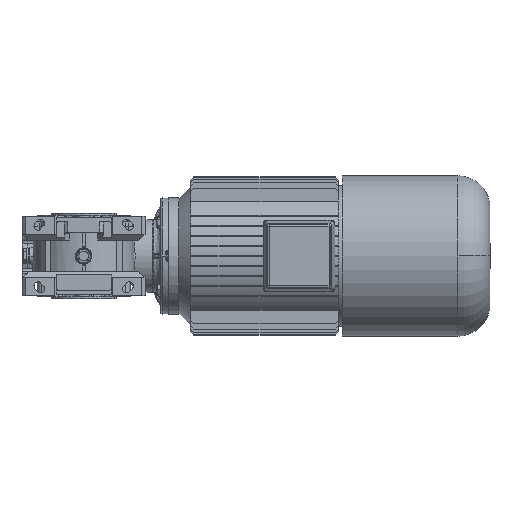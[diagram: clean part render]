
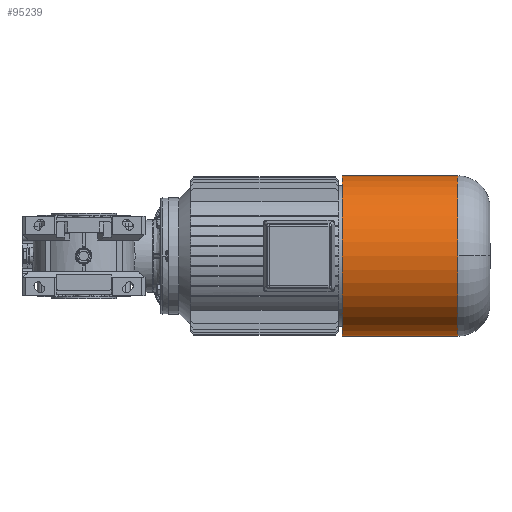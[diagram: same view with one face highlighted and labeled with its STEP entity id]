
A CAD part, front view. The second image highlights one B-rep face of the part: STEP entity #95239.
In plain terms, the highlighted cylindrical face has radius 110.5 mm (diameter 221 mm), a partial arc.
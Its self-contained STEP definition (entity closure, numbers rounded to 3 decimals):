
#95189=CARTESIAN_POINT('',(378.9,0.0,0.0));
#95190=DIRECTION('',(1.0,0.0,0.0));
#95191=DIRECTION('',(0.0,1.0,0.0));
#95192=AXIS2_PLACEMENT_3D('',#95189,#95190,#95191);
#95193=CYLINDRICAL_SURFACE('',#95192,110.5);
#95194=CARTESIAN_POINT('',(299.0,110.5,0.0));
#95195=VERTEX_POINT('',#95194);
#95196=CARTESIAN_POINT('',(458.8,110.5,0.0));
#95197=VERTEX_POINT('',#95196);
#95198=CARTESIAN_POINT('',(299.0,110.5,0.0));
#95199=DIRECTION('',(1.0,0.0,0.0));
#95200=VECTOR('',#95199,159.8);
#95201=LINE('',#95198,#95200);
#95202=EDGE_CURVE('',#95195,#95197,#95201,.T.);
#95203=ORIENTED_EDGE('',*,*,#95202,.F.);
#95204=CARTESIAN_POINT('',(299.0,-110.5,0.));
#95205=VERTEX_POINT('',#95204);
#95206=CARTESIAN_POINT('',(299.0,0.0,0.0));
#95207=DIRECTION('',(1.0,0.0,0.0));
#95208=DIRECTION('',(0.0,1.0,0.0));
#95209=AXIS2_PLACEMENT_3D('',#95206,#95207,#95208);
#95210=CIRCLE('',#95209,110.5);
#95211=EDGE_CURVE('',#95195,#95205,#95210,.T.);
#95212=ORIENTED_EDGE('',*,*,#95211,.T.);
#95213=CARTESIAN_POINT('',(458.8,-110.5,0.));
#95214=VERTEX_POINT('',#95213);
#95215=CARTESIAN_POINT('',(458.8,-110.5,0.));
#95216=DIRECTION('',(-1.0,0.0,0.0));
#95217=VECTOR('',#95216,159.8);
#95218=LINE('',#95215,#95217);
#95219=EDGE_CURVE('',#95214,#95205,#95218,.T.);
#95220=ORIENTED_EDGE('',*,*,#95219,.F.);
#95221=CARTESIAN_POINT('',(458.8,0.,110.5));
#95222=VERTEX_POINT('',#95221);
#95223=CARTESIAN_POINT('',(458.8,0.0,0.0));
#95224=DIRECTION('',(1.0,0.0,0.0));
#95225=DIRECTION('',(0.0,1.0,0.0));
#95226=AXIS2_PLACEMENT_3D('',#95223,#95224,#95225);
#95227=CIRCLE('',#95226,110.5);
#95228=EDGE_CURVE('',#95222,#95214,#95227,.T.);
#95229=ORIENTED_EDGE('',*,*,#95228,.F.);
#95230=CARTESIAN_POINT('',(458.8,0.0,0.0));
#95231=DIRECTION('',(1.0,0.0,0.0));
#95232=DIRECTION('',(0.0,1.0,0.0));
#95233=AXIS2_PLACEMENT_3D('',#95230,#95231,#95232);
#95234=CIRCLE('',#95233,110.5);
#95235=EDGE_CURVE('',#95197,#95222,#95234,.T.);
#95236=ORIENTED_EDGE('',*,*,#95235,.F.);
#95237=EDGE_LOOP('',(#95203,#95212,#95220,#95229,#95236));
#95238=FACE_OUTER_BOUND('',#95237,.T.);
#95239=ADVANCED_FACE('',(#95238),#95193,.T.);
